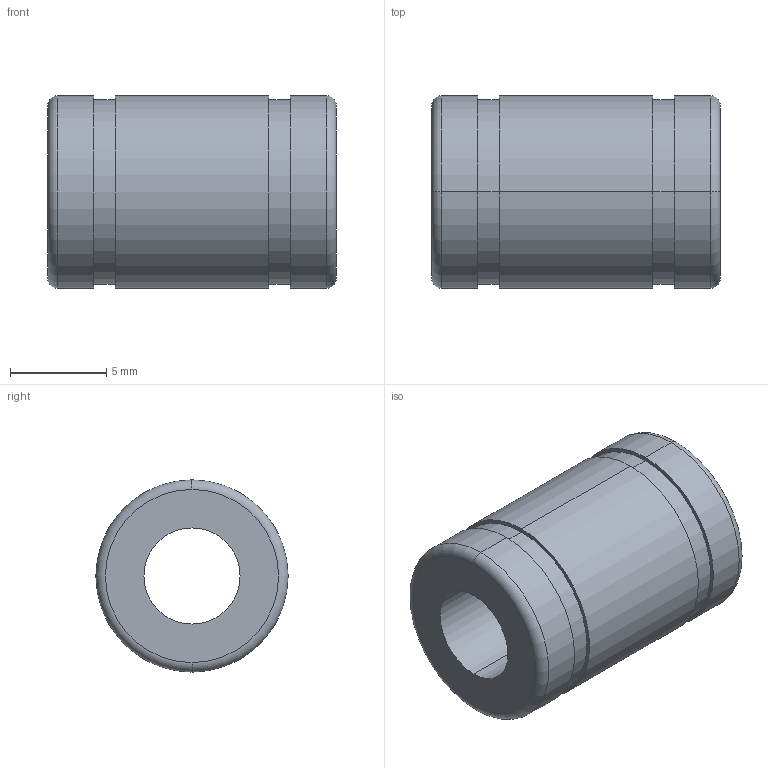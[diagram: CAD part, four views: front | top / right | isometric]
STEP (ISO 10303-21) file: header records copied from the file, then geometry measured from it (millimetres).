
FILE_DESCRIPTION (( 'STEP AP214' ), '1' );
FILE_NAME ('2.7003 Lineaarilaakeri LM5UU.STEP', '2024-06-17T07:18:13', ( '' ), ( '' ), 'SwSTEP 2.0', 'SolidWorks 2024', '' );
FILE_SCHEMA (( 'AUTOMOTIVE_DESIGN' ));
Length unit declared in the file: millimetre
Products named in the file (1): 2.7003 Lineaarilaakeri LM5UU
Bounding box: 15 x 10 x 10 mm (x, y, z)
Volume: 866.7 mm3; surface area: 832.8 mm2
Topology: 1 solids, 1 shells, 22 faces, 44 edges, 28 vertices
Faces by surface type: cylinder 12, plane 6, torus 4
Entity records: 615 total; most frequent: DIRECTION 122, CARTESIAN_POINT 95, ORIENTED_EDGE 88, AXIS2_PLACEMENT_3D 55, EDGE_CURVE 44, CIRCLE 32, VERTEX_POINT 28, EDGE_LOOP 28
